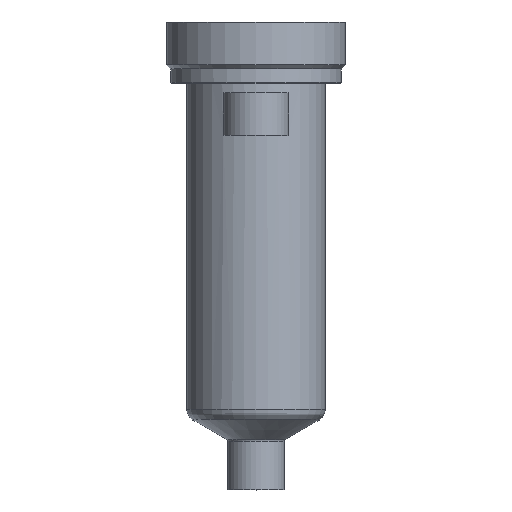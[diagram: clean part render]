
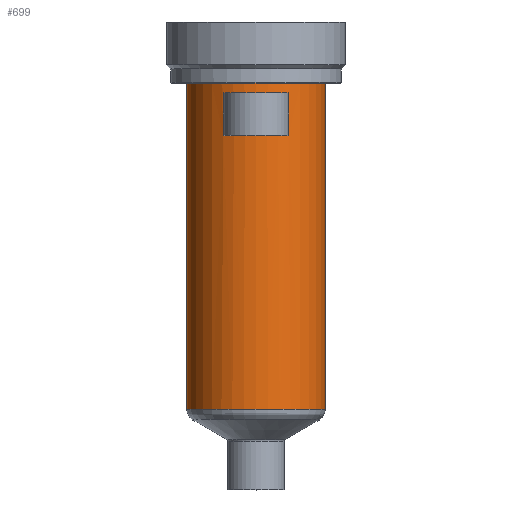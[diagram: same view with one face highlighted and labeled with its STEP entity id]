
A CAD part, top view. The second image highlights one B-rep face of the part: STEP entity #699.
In plain terms, the highlighted cylindrical face has radius 17 mm (diameter 34 mm), a partial arc.
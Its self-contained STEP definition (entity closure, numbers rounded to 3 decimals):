
#191=DIRECTION('',(0.,-1.,0.));
#192=VECTOR('',#191,80.206);
#193=CARTESIAN_POINT('',(17.,0.,0.));
#194=LINE('',#193,#192);
#195=CARTESIAN_POINT('',(0.,-80.206,0.));
#196=DIRECTION('',(0.,1.,0.));
#197=DIRECTION('',(-1.,0.,0.));
#198=AXIS2_PLACEMENT_3D('',#195,#196,#197);
#200=DIRECTION('',(0.,1.,0.));
#201=VECTOR('',#200,80.206);
#202=CARTESIAN_POINT('',(-17.,-80.206,0.));
#203=LINE('',#202,#201);
#204=CARTESIAN_POINT('',(0.,0.,0.));
#205=DIRECTION('',(0.,1.,0.));
#206=DIRECTION('',(-1.,0.,0.));
#207=AXIS2_PLACEMENT_3D('',#204,#205,#206);
#285=DIRECTION('',(0.,1.,0.));
#286=VECTOR('',#285,10.5);
#287=CARTESIAN_POINT('',(-8.,-13.,15.));
#288=LINE('',#287,#286);
#289=CARTESIAN_POINT('',(0.,-13.,0.));
#290=DIRECTION('',(0.,1.,0.));
#291=DIRECTION('',(-0.471,0.,0.882));
#292=AXIS2_PLACEMENT_3D('',#289,#290,#291);
#315=CARTESIAN_POINT('',(0.,-2.5,0.));
#316=DIRECTION('',(0.,-1.,0.));
#317=DIRECTION('',(0.471,0.,0.882));
#318=AXIS2_PLACEMENT_3D('',#315,#316,#317);
#333=DIRECTION('',(0.,1.,0.));
#334=VECTOR('',#333,10.5);
#335=CARTESIAN_POINT('',(8.,-13.,15.));
#336=LINE('',#335,#334);
#394=CARTESIAN_POINT('',(-17.,0.,0.));
#395=CARTESIAN_POINT('',(17.,0.,0.));
#396=VERTEX_POINT('',#394);
#397=VERTEX_POINT('',#395);
#406=CARTESIAN_POINT('',(-8.,-2.5,15.));
#407=VERTEX_POINT('',#406);
#408=CARTESIAN_POINT('',(8.,-2.5,15.));
#409=VERTEX_POINT('',#408);
#446=CARTESIAN_POINT('',(17.,-80.206,0.));
#447=VERTEX_POINT('',#446);
#456=CARTESIAN_POINT('',(-17.,-80.206,0.));
#457=VERTEX_POINT('',#456);
#458=CARTESIAN_POINT('',(-8.,-13.,15.));
#459=CARTESIAN_POINT('',(8.,-13.,15.));
#460=VERTEX_POINT('',#458);
#461=VERTEX_POINT('',#459);
#677=CARTESIAN_POINT('',(0.,16.4,0.));
#678=DIRECTION('',(0.,-1.,0.));
#679=DIRECTION('',(-1.,0.,0.));
#680=AXIS2_PLACEMENT_3D('',#677,#678,#679);
#681=CYLINDRICAL_SURFACE('',#680,17.);
#682=ORIENTED_EDGE('',*,*,#671,.T.);
#684=ORIENTED_EDGE('',*,*,#683,.F.);
#685=ORIENTED_EDGE('',*,*,#667,.T.);
#686=ORIENTED_EDGE('',*,*,#657,.T.);
#687=EDGE_LOOP('',(#682,#684,#685,#686));
#688=FACE_OUTER_BOUND('',#687,.F.);
#690=ORIENTED_EDGE('',*,*,#689,.F.);
#692=ORIENTED_EDGE('',*,*,#691,.T.);
#694=ORIENTED_EDGE('',*,*,#693,.T.);
#696=ORIENTED_EDGE('',*,*,#695,.T.);
#697=EDGE_LOOP('',(#690,#692,#694,#696));
#698=FACE_BOUND('',#697,.F.);
#699=ADVANCED_FACE('',(#688,#698),#681,.T.);
#199=CIRCLE('',#198,17.);
#208=CIRCLE('',#207,17.);
#293=CIRCLE('',#292,17.);
#319=CIRCLE('',#318,17.);
#657=EDGE_CURVE('',#396,#397,#208,.T.);
#667=EDGE_CURVE('',#457,#396,#203,.T.);
#671=EDGE_CURVE('',#397,#447,#194,.T.);
#683=EDGE_CURVE('',#457,#447,#199,.T.);
#689=EDGE_CURVE('',#460,#407,#288,.T.);
#691=EDGE_CURVE('',#460,#461,#293,.T.);
#693=EDGE_CURVE('',#461,#409,#336,.T.);
#695=EDGE_CURVE('',#409,#407,#319,.T.);
